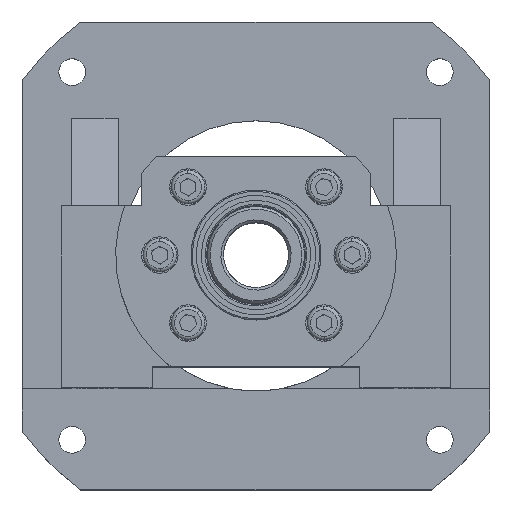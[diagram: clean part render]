
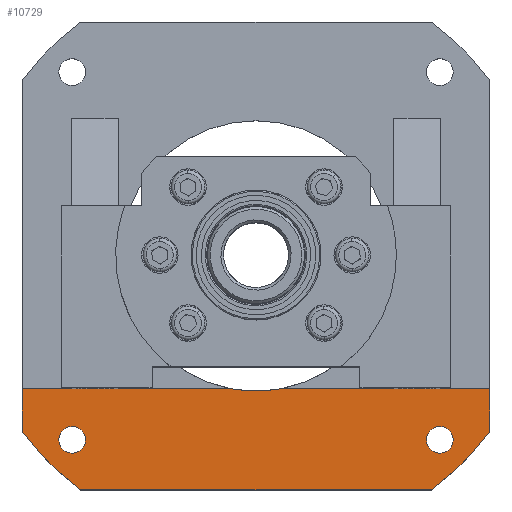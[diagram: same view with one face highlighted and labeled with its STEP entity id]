
A CAD part, top view. The second image highlights one B-rep face of the part: STEP entity #10729.
In plain terms, the highlighted planar face has unit normal (0, 0, 1).
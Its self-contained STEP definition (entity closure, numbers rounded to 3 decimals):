
#221 = LINE ( 'NONE', #5744, #6163 ) ;
#336 = EDGE_LOOP ( 'NONE', ( #11311, #4033 ) ) ;
#465 = ORIENTED_EDGE ( 'NONE', *, *, #2695, .T. ) ;
#691 = DIRECTION ( 'NONE',  ( 0., 0., 1. ) ) ;
#758 = PLANE ( 'NONE',  #12523 ) ;
#779 = AXIS2_PLACEMENT_3D ( 'NONE', #13427, #6317, #14624 ) ;
#917 = AXIS2_PLACEMENT_3D ( 'NONE', #4415, #12733, #5603 ) ;
#1381 = LINE ( 'NONE', #8230, #13286 ) ;
#1431 = VERTEX_POINT ( 'NONE', #10163 ) ;
#1654 = VERTEX_POINT ( 'NONE', #13067 ) ;
#1700 = FACE_OUTER_BOUND ( 'NONE', #11785, .T. ) ;
#1776 = DIRECTION ( 'NONE',  ( 0., 0., 1. ) ) ;
#2031 = VERTEX_POINT ( 'NONE', #2132 ) ;
#2132 = CARTESIAN_POINT ( 'NONE',  ( -90., -51.01, 21. ) ) ;
#2221 = DIRECTION ( 'NONE',  ( 1., 0., 0. ) ) ;
#2441 = CIRCLE ( 'NONE', #6359, 5.15 ) ;
#2461 = DIRECTION ( 'NONE',  ( 1., 0., 0. ) ) ;
#2525 = ORIENTED_EDGE ( 'NONE', *, *, #13886, .T. ) ;
#2695 = EDGE_CURVE ( 'NONE', #8766, #9342, #10795, .T. ) ;
#2722 = ORIENTED_EDGE ( 'NONE', *, *, #10861, .F. ) ;
#3076 = CARTESIAN_POINT ( 'NONE',  ( 70.711, -70.711, 21. ) ) ;
#3296 = VERTEX_POINT ( 'NONE', #8196 ) ;
#3517 = DIRECTION ( 'NONE',  ( 0., -1., 0. ) ) ;
#3712 = DIRECTION ( 'NONE',  ( 0., 0., 1. ) ) ;
#4033 = ORIENTED_EDGE ( 'NONE', *, *, #7324, .F. ) ;
#4267 = DIRECTION ( 'NONE',  ( 1., 0., 0. ) ) ;
#4391 = EDGE_CURVE ( 'NONE', #2031, #6741, #8526, .T. ) ;
#4415 = CARTESIAN_POINT ( 'NONE',  ( 0., 0., 21. ) ) ;
#4443 = DIRECTION ( 'NONE',  ( 0., 0., -1. ) ) ;
#4773 = AXIS2_PLACEMENT_3D ( 'NONE', #8899, #1776, #10099 ) ;
#4836 = VECTOR ( 'NONE', #6976, 1000. ) ;
#4862 = FACE_BOUND ( 'NONE', #336, .T. ) ;
#5428 = ORIENTED_EDGE ( 'NONE', *, *, #13760, .T. ) ;
#5532 = DIRECTION ( 'NONE',  ( 1., 0., 0. ) ) ;
#5603 = DIRECTION ( 'NONE',  ( 1., 0., 0. ) ) ;
#5744 = CARTESIAN_POINT ( 'NONE',  ( -91.047, -51.01, 21. ) ) ;
#5797 = CARTESIAN_POINT ( 'NONE',  ( -91.047, -51.01, 21. ) ) ;
#5806 = CIRCLE ( 'NONE', #9642, 52. ) ;
#5983 = VECTOR ( 'NONE', #2461, 1000. ) ;
#6163 = VECTOR ( 'NONE', #6944, 1000. ) ;
#6211 = CARTESIAN_POINT ( 'NONE',  ( 10.099, -51.01, 21. ) ) ;
#6317 = DIRECTION ( 'NONE',  ( 0., 0., 1. ) ) ;
#6359 = AXIS2_PLACEMENT_3D ( 'NONE', #3076, #11374, #4267 ) ;
#6400 = CIRCLE ( 'NONE', #917, 112.5 ) ;
#6741 = VERTEX_POINT ( 'NONE', #14138 ) ;
#6944 = DIRECTION ( 'NONE',  ( 1., 0., 0. ) ) ;
#6976 = DIRECTION ( 'NONE',  ( 0., 1., 0. ) ) ;
#7052 = CARTESIAN_POINT ( 'NONE',  ( -90., -67.5, 21. ) ) ;
#7324 = EDGE_CURVE ( 'NONE', #8870, #9397, #7347, .T. ) ;
#7347 = CIRCLE ( 'NONE', #11489, 5.15 ) ;
#7429 = VERTEX_POINT ( 'NONE', #6211 ) ;
#7797 = CARTESIAN_POINT ( 'NONE',  ( 0., 0., 21. ) ) ;
#8021 = FACE_BOUND ( 'NONE', #14189, .T. ) ;
#8150 = VECTOR ( 'NONE', #2221, 1000. ) ;
#8196 = CARTESIAN_POINT ( 'NONE',  ( 67.5, -90., 21. ) ) ;
#8230 = CARTESIAN_POINT ( 'NONE',  ( -90., 90., 21. ) ) ;
#8321 = ORIENTED_EDGE ( 'NONE', *, *, #10308, .T. ) ;
#8526 = LINE ( 'NONE', #5797, #8150 ) ;
#8528 = CARTESIAN_POINT ( 'NONE',  ( 90., -51.01, 21. ) ) ;
#8766 = VERTEX_POINT ( 'NONE', #15049 ) ;
#8870 = VERTEX_POINT ( 'NONE', #9447 ) ;
#8880 = EDGE_CURVE ( 'NONE', #2031, #10932, #1381, .T. ) ;
#8899 = CARTESIAN_POINT ( 'NONE',  ( -70.711, -70.711, 21. ) ) ;
#8994 = DIRECTION ( 'NONE',  ( 1., 0., 0. ) ) ;
#9031 = CARTESIAN_POINT ( 'NONE',  ( -75.861, -70.711, 21. ) ) ;
#9342 = VERTEX_POINT ( 'NONE', #8528 ) ;
#9397 = VERTEX_POINT ( 'NONE', #10977 ) ;
#9447 = CARTESIAN_POINT ( 'NONE',  ( 75.861, -70.711, 21. ) ) ;
#9513 = ORIENTED_EDGE ( 'NONE', *, *, #11076, .F. ) ;
#9642 = AXIS2_PLACEMENT_3D ( 'NONE', #11546, #4443, #12763 ) ;
#9667 = ORIENTED_EDGE ( 'NONE', *, *, #11220, .F. ) ;
#9891 = CIRCLE ( 'NONE', #779, 5.15 ) ;
#10099 = DIRECTION ( 'NONE',  ( 1., 0., 0. ) ) ;
#10163 = CARTESIAN_POINT ( 'NONE',  ( -67.5, -90., 21. ) ) ;
#10308 = EDGE_CURVE ( 'NONE', #7429, #6741, #5806, .T. ) ;
#10551 = ORIENTED_EDGE ( 'NONE', *, *, #4391, .F. ) ;
#10610 = EDGE_CURVE ( 'NONE', #1431, #3296, #15094, .T. ) ;
#10685 = CIRCLE ( 'NONE', #13168, 112.5 ) ;
#10729 = ADVANCED_FACE ( 'NONE', ( #1700, #4862, #8021 ), #758, .T. ) ;
#10795 = LINE ( 'NONE', #14092, #4836 ) ;
#10832 = CARTESIAN_POINT ( 'NONE',  ( 70.711, -70.711, 21. ) ) ;
#10861 = EDGE_CURVE ( 'NONE', #7429, #9342, #221, .T. ) ;
#10932 = VERTEX_POINT ( 'NONE', #7052 ) ;
#10977 = CARTESIAN_POINT ( 'NONE',  ( 65.561, -70.711, 21. ) ) ;
#11076 = EDGE_CURVE ( 'NONE', #1654, #12159, #9891, .T. ) ;
#11220 = EDGE_CURVE ( 'NONE', #12159, #1654, #11916, .T. ) ;
#11304 = EDGE_CURVE ( 'NONE', #9397, #8870, #2441, .T. ) ;
#11311 = ORIENTED_EDGE ( 'NONE', *, *, #11304, .F. ) ;
#11374 = DIRECTION ( 'NONE',  ( 0., 0., 1. ) ) ;
#11447 = CARTESIAN_POINT ( 'NONE',  ( -104.626, -111., 21. ) ) ;
#11489 = AXIS2_PLACEMENT_3D ( 'NONE', #10832, #3712, #12025 ) ;
#11546 = CARTESIAN_POINT ( 'NONE',  ( 0., 0., 21. ) ) ;
#11785 = EDGE_LOOP ( 'NONE', ( #10551, #14373, #5428, #12339, #2525, #465, #2722, #8321 ) ) ;
#11916 = CIRCLE ( 'NONE', #4773, 5.15 ) ;
#11970 = CARTESIAN_POINT ( 'NONE',  ( -90., -90., 21. ) ) ;
#12025 = DIRECTION ( 'NONE',  ( 1., 0., 0. ) ) ;
#12159 = VERTEX_POINT ( 'NONE', #9031 ) ;
#12339 = ORIENTED_EDGE ( 'NONE', *, *, #10610, .T. ) ;
#12523 = AXIS2_PLACEMENT_3D ( 'NONE', #11447, #12647, #5532 ) ;
#12647 = DIRECTION ( 'NONE',  ( 0., 0., 1. ) ) ;
#12733 = DIRECTION ( 'NONE',  ( 0., 0., 1. ) ) ;
#12763 = DIRECTION ( 'NONE',  ( 1., 0., 0. ) ) ;
#13067 = CARTESIAN_POINT ( 'NONE',  ( -65.561, -70.711, 21. ) ) ;
#13168 = AXIS2_PLACEMENT_3D ( 'NONE', #7797, #691, #8994 ) ;
#13286 = VECTOR ( 'NONE', #3517, 1000. ) ;
#13427 = CARTESIAN_POINT ( 'NONE',  ( -70.711, -70.711, 21. ) ) ;
#13760 = EDGE_CURVE ( 'NONE', #10932, #1431, #10685, .T. ) ;
#13886 = EDGE_CURVE ( 'NONE', #3296, #8766, #6400, .T. ) ;
#14092 = CARTESIAN_POINT ( 'NONE',  ( 90., 90., 21. ) ) ;
#14138 = CARTESIAN_POINT ( 'NONE',  ( -10.099, -51.01, 21. ) ) ;
#14189 = EDGE_LOOP ( 'NONE', ( #9667, #9513 ) ) ;
#14373 = ORIENTED_EDGE ( 'NONE', *, *, #8880, .T. ) ;
#14624 = DIRECTION ( 'NONE',  ( 1., 0., 0. ) ) ;
#15049 = CARTESIAN_POINT ( 'NONE',  ( 90., -67.5, 21. ) ) ;
#15094 = LINE ( 'NONE', #11970, #5983 ) ;
